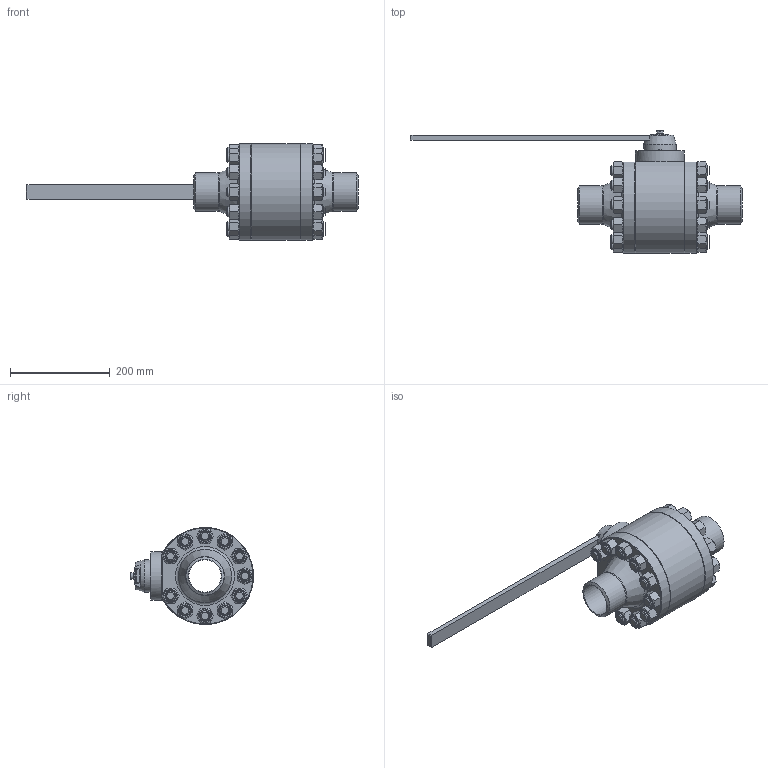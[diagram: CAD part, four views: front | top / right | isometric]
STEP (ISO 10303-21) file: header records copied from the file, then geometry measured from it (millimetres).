
FILE_DESCRIPTION(('STEP AP203'), '1');
FILE_NAME('ZARDP 065.063.40.P.stp', '2013-12-11T08:41:48', ('1'), ('1'), 'ASCON STEP Converter 1.3', 'Kompas 3D', '');
FILE_SCHEMA(('CONFIG_CONTROL_DESIGN','SUPPORT_RESOURCE_SCHEMA'));
Length unit declared in the file: millimetre
Products named in the file (1): 5
Bounding box: 667 x 246.64 x 194.72 mm (x, y, z)
Volume: 4406800.4 mm3; surface area: 522861.4 mm2
Topology: 1 solids, 52 shells, 839 faces, 1879 edges, 1182 vertices
Faces by surface type: plane 436, cone 230, cylinder 169, torus 4
Full cylindrical faces by diameter (mm): 8 x3, 8.5 x1, 10 x6, 10.106 x6, 12 x6, 13 x7, 17.294 x22, 18 x6, 20 x50, 22 x22, 28.7 x1, 29.8 x1, 30 x1, 31 x1, 36 x1, 40 x1, 40.5 x1, 65 x3, 77 x2, 98 x1, 120 x1
Entity records: 35357 total; most frequent: CARTESIAN_POINT 16762, DIRECTION 3899, ORIENTED_EDGE 3690, EDGE_CURVE 1845, AXIS2_PLACEMENT_3D 1566, VERTEX_POINT 1182, EDGE_LOOP 981, ADVANCED_FACE 839
